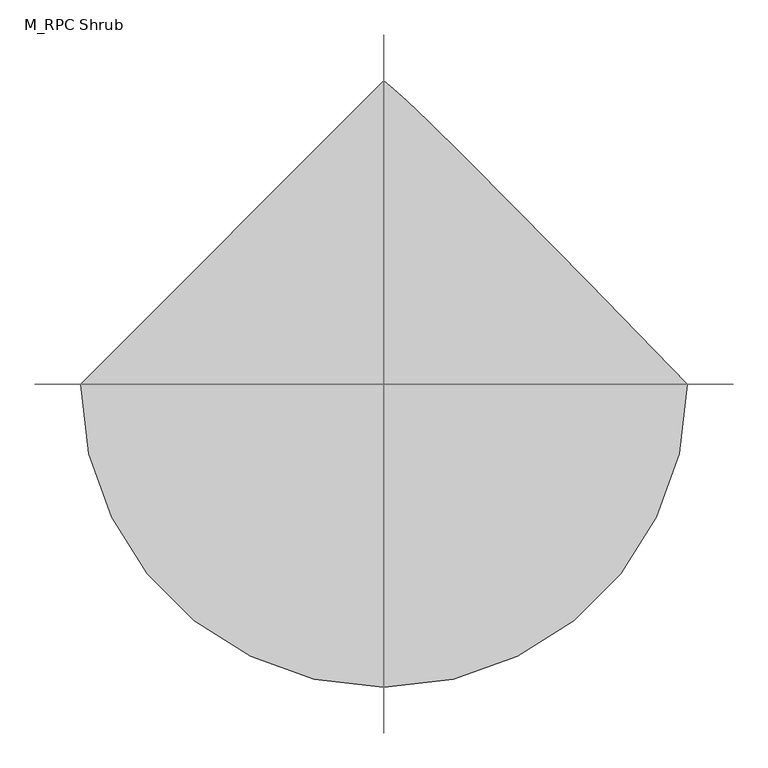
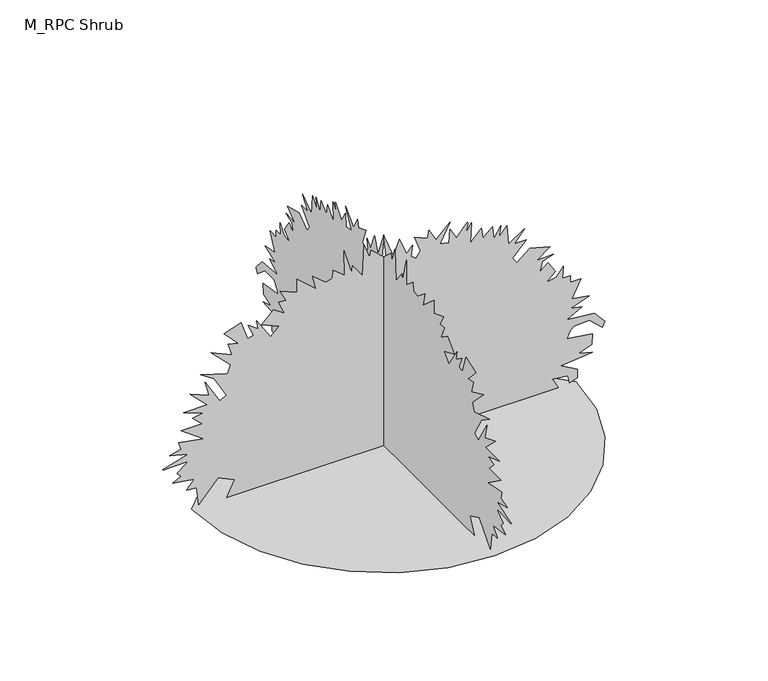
"""IFC4 building model written with IfcOpenShell, lengths in millimetres: geographic element geometry, M_RPC Shrub : Holly - 1.0 Meters."""

from ifc_helpers import new_model, si_unit, origin, place, context, project, spatial, triangles, source, transform, mapped, element, save


def m_rpc_shrub_0614e2a3(model_context):
    return source(origin(), model_context, "Body", "Tessellation", [
        triangles([(-863.8895657, 0.0, 8.03e-05), (-841.0534595, -197.9465477, 8.03e-05), (-776.008956, -379.7280936, 8.03e-05), (-673.9672194, -540.1393052, 8.03e-05), (-540.1393052, -673.9672194, 8.03e-05), (-379.7280936, -776.008956, 8.03e-05), (-197.9465477, -841.0534595, 8.03e-05), (3.78e-05, -863.8895657, 8.03e-05), (197.9468202, -841.0534595, 8.03e-05), (379.7280936, -776.008956, 8.03e-05), (540.1393052, -673.9672194, 8.03e-05), (673.9672194, -540.1393052, 8.03e-05), (776.008956, -379.7280936, 8.03e-05), (841.0534595, -197.9465477, 8.03e-05), (863.8895657, 7.55e-05, 8.03e-05), (583.1449287, 287.9752275, 8.03e-05), (375.0141735, 500.0004035, 8.03e-05), (227.3965669, 648.7310417, 8.03e-05), (128.1887144, 746.8255629, 8.03e-05), (65.288107, 806.9450764, 8.03e-05), (26.592799, 841.7478939, 8.03e-05), (-0.0001133, 863.8895657, 8.03e-05), (-3.9e-06, -706.4477949, 3.2e-06), (1.1e-06, -671.7338528, 73.0758902), (0.0, -744.6339088, 107.8284201), (0.0, -831.4201086, 10.6268143), (0.0, -841.8367693, 93.9425762), (0.0, -886.9646107, 97.4139668), (0.0, -852.2506685, 139.0717801), (0.0, -949.4507675, 152.9579056), (0.0, -911.2646536, 173.7868123), (0.0, -928.6229691, 191.1443284), (2e-07, -926.3202026, 195.0482144), (-1e-07, -885.9451235, 227.4137897), (0.0, -883.4923662, 232.8021236), (3e-07, -987.8563448, 230.2871245), (0.0, -994.5813704, 232.8021236), (0.0, -880.0229559, 267.5168833), (0.0, -963.3369112, 288.3446817), (0.0, -911.2646536, 302.2307891), (0.0, -921.6784801, 336.9474927), (0.0, -810.5923101, 316.1169328), (0.0, -911.2646536, 389.0197503), (0.0, -817.5339649, 389.0197503), (0.0, -859.1923233, 430.6781087), (0.0, -810.5923101, 441.0920079), (0.0, -900.8507544, 472.3337056), (0.0, -793.2339947, 472.3337056), (0.0, -869.6062225, 548.7087676), (0.0, -786.2922672, 513.992064), (0.0, -803.6506554, 583.4226734), (0.0, -737.6894926, 472.3337056), (0.0, -706.4477949, 486.2198493), (0.0, -761.992297, 583.4226734), (0.0, -824.4784538, 625.0810318), (0.0, -702.9755505, 586.8949179), (0.0, -689.0894068, 625.0810318), (0.0, -775.878368, 711.8672316), (0.0, -682.147752, 670.2088732), (0.0, -699.5061401, 725.7533752), (0.0, -654.3755373, 715.339476), (0.0, -716.8616941, 781.2978773), (0.0, -640.4893936, 809.070092), (0.0, -612.7171789, 722.2811308), (0.0, -584.9449279, 729.2256197), (0.0, -609.2449345, 784.7672876), (0.0, -564.1171294, 753.5255899), (7e-07, -571.0587842, 792.0756351), (0.0, -508.5726274, 694.5089161), (0.0, -470.3864771, 732.69503), (0.0, -550.2309857, 767.4117336), (0.0, -494.68652, 819.4839912), (0.0, -446.0864705, 784.7672876), (0.0, -473.8587215, 847.2562059), (0.0, -439.1420179, 843.7840342), (0.0, -466.914269, 895.8562918), (0.0, -390.5419684, 864.6118326), (0.0, -390.5419684, 927.1007509), (0.0, -303.755805, 850.7256889), (0.0, -321.111359, 916.6840902), (0.0, -262.097156, 868.0840044), (0.0, -230.8540775, 875.0284933), (0.0, -227.3821238, 913.2146072), (0.0, -175.3098661, 871.5562489), (0.0, -178.7818017, 989.5869078), (0.0, -144.0667786, 871.5562489), (0.0, -140.5951155, 902.7979465), (0.0, -95.46563, 840.3117897), (0.0, -88.5228488, 986.1146633), (0.0, -64.2222745, 916.6840902), (0.0, -57.2794888, 947.9285494), (0.0, 12.1501214, 885.4423925), (0.0, -1.7355514, 1000.000807), (0.0, 43.393922, 885.4423925), (0.0, 71.1656143, 954.8702042), (0.0, 102.4089744, 875.0284933), (0.0, 130.1809347, 906.270191), (0.0, 123.237872, 857.6701052), (0.0, 144.0670602, 840.3117897), (0.0, 164.8959669, 868.0840044), (0.0, 137.1239975, 940.9868946), (0.0, 196.1393178, 916.6840902), (0.0, 203.0818265, 951.4007938), (0.0, 234.3257406, 895.8562918), (0.0, 296.8113524, 958.3424486), (0.0, 251.6829842, 871.5562489), (0.0, 293.3419058, 861.1423496), (0.0, 296.8113524, 923.6285065), (0.0, 328.0558116, 871.5562489), (0.0, 374.4502908, 928.3341059), (0.0, 377.0003168, 928.1229996), (0.0, 377.7308681, 923.8090914), (0.0, 369.71417, 881.9701481), (0.0, 394.0142129, 920.156262), (0.0, 390.5419684, 826.425646), (0.0, 439.1447794, 878.4979036), (0.0, 446.0864705, 829.8978905), (0.0, 487.7448289, 868.0840044), (0.0, 494.68652, 809.070092), (0.0, 525.9309792, 861.1423496), (0.0, 518.9865266, 809.070092), (0.0, 553.7032302, 850.7256889), (0.0, 560.644885, 760.4672447), (0.0, 633.5477388, 809.070092), (0.0, 588.417136, 753.5255899), (0.0, 640.4893936, 753.5255899), (0.0, 578.0032368, 687.5671886), (0.0, 598.8310352, 659.7949739), (0.0, 657.8477818, 708.3949871), (0.0, 748.1061533, 684.0950169), (0.0, 689.0894068, 638.9671755), (0.0, 761.992297, 642.4366585), (0.0, 713.3922112, 625.0810318), (0.0, 702.9755505, 579.9504653), (0.0, 737.6922541, 611.1949608), (0.0, 772.4061962, 559.1226668), (0.0, 730.7478378, 520.9365166), (0.0, 775.878368, 527.8782077), (0.0, 807.1200657, 569.5365661), (0.0, 803.6506554, 513.992064), (0.0, 838.3645248, 513.992064), (0.0, 838.3645248, 482.7504026), (0.0, 886.9646107, 482.7504026), (0.0, 845.3062523, 402.905894), (0.0, 925.1507246, 389.0197503), (0.0, 841.8367693, 357.7752912), (0.0, 890.4368551, 347.3613919), (0.0, 824.4784538, 309.1752417), (0.0, 945.9812845, 298.7613424), (0.0, 994.5813704, 243.216586), (0.0, 984.1674711, 218.9160162), (0.0, 925.1507246, 270.9882739), (0.0, 858.8201077, 269.4702161), (0.0, 850.034016, 265.2193854), (0.0, 842.9201334, 258.6913137), (0.0, 837.1395269, 250.3415872), (0.0, 832.3617662, 240.6254651), (0.0, 828.2534414, 229.9985157), (0.0, 824.4784538, 218.9160162), (0.0, 939.0368683, 201.5587727), (0.0, 935.5673853, 152.9579056), (0.0, 876.5507114, 132.1289989), (0.0, 939.0368683, 114.7714828), (0.0, 796.7061665, 100.8856389), (0.0, 869.6090567, 59.2275485), (0.0, 869.6090567, 17.5697919), (0.0, 834.8923531, 7.1553392), (0.0, 827.9506983, 41.8703095), (0.0, 758.5200525, 48.8130952), (0.0, 786.2922672, 0.2123593), (-706.4477949, 0.0001301, 0.0), (-671.7338528, 0.0001207, 73.0758902), (-744.6339088, 0.0001197, 107.8284201), (-831.4201086, 0.0001255, 10.6268143), (-841.8367693, 0.0001206, 93.9425762), (-886.9646107, 0.0001204, 97.4139668), (-852.2506685, 0.0001179, 139.0717801), (-949.4507675, 0.000117, 152.9579056), (-911.2646536, 0.0001158, 173.7868123), (-928.6229691, 0.0001148, 191.1443284), (-926.3202026, 0.0001143, 195.0482144), (-885.9451235, 0.0001127, 227.4137897), (-883.4923662, 0.0001123, 232.8021236), (-987.8563448, 0.0001122, 230.2871245), (-994.5813704, 0.0001123, 232.8021236), (-880.0229559, 0.0001102, 267.5168833), (-963.3369112, 0.000109, 288.3446817), (-911.2646536, 0.0001082, 302.2307891), (-921.6784801, 0.0001061, 336.9474927), (-810.5923101, 0.0001073, 316.1169328), (-911.2646536, 0.000103, 389.0197503), (-817.5339649, 0.000103, 389.0197503), (-859.1923233, 0.0001005, 430.6781087), (-810.5923101, 9.99e-05, 441.0920079), (-900.8507544, 9.8e-05, 472.3337056), (-793.2339947, 9.8e-05, 472.3337056), (-869.6062225, 9.35e-05, 548.7060061), (-786.2922672, 9.55e-05, 513.992064), (-803.6506554, 9.14e-05, 583.4226734), (-737.6922541, 9.8e-05, 472.3337056), (-706.4477949, 9.72e-05, 486.2198493), (-761.992297, 9.14e-05, 583.4226734), (-824.4784538, 8.89e-05, 625.0810318), (-702.9755505, 9.12e-05, 586.8949179), (-689.0894068, 8.89e-05, 625.0810318), (-775.878368, 8.37e-05, 711.8672316), (-682.147752, 8.62e-05, 670.2088732), (-699.5061401, 8.29e-05, 725.7533752), (-654.3755373, 8.35e-05, 715.339476), (-716.8616941, 7.96e-05, 781.2978773), (-640.4893936, 7.79e-05, 809.070092), (-612.7171789, 8.31e-05, 722.2811308), (-584.9449279, 8.27e-05, 729.2256197), (-609.2449345, 7.94e-05, 784.7672876), (-564.1171294, 8.13e-05, 753.5255899), (-571.0587842, 7.83e-05, 792.0756351), (-508.5726274, 8.48e-05, 694.5089161), (-470.3864771, 8.25e-05, 732.69503), (-550.2309857, 8.04e-05, 767.4117336), (-494.68652, 7.73e-05, 819.4839912), (-446.0864705, 7.94e-05, 784.7672876), (-473.8587215, 7.57e-05, 847.2562059), (-439.1447794, 7.59e-05, 843.7840342), (-466.914269, 7.28e-05, 895.8562918), (-390.5419684, 7.46e-05, 864.6118326), (-390.5419684, 7.09e-05, 927.1007509), (-303.755805, 7.55e-05, 850.7256889), (-321.111359, 7.15e-05, 916.6840902), (-262.097156, 7.44e-05, 868.0840044), (-230.8540775, 7.4e-05, 875.0284933), (-227.3823963, 7.17e-05, 913.2146072), (-175.3098661, 7.42e-05, 871.5562489), (-178.7818017, 6.72e-05, 989.5869078), (-144.0670602, 7.42e-05, 871.5562489), (-140.5951155, 7.24e-05, 902.7979465), (-95.4659116, 7.61e-05, 840.3117897), (-88.5228488, 6.74e-05, 986.1146633), (-64.2225516, 7.15e-05, 916.6840902), (-57.2797659, 6.97e-05, 947.9285494), (12.1500101, 7.34e-05, 885.4423925), (-1.7356514, 6.66e-05, 1000.000807), (43.3936449, 7.34e-05, 885.4423925), (71.1656143, 6.93e-05, 954.8702042), (102.4089744, 7.4e-05, 875.0284933), (130.1809347, 7.21e-05, 906.270191), (123.237872, 7.5e-05, 857.6701052), (144.0667786, 7.61e-05, 840.3117897), (164.8956944, 7.44e-05, 868.0840044), (137.1239975, 7.01e-05, 940.9840605), (196.1390453, 7.15e-05, 916.6840902), (203.0818265, 6.95e-05, 951.4007938), (234.3254681, 7.28e-05, 895.8562918), (296.8113524, 6.9e-05, 958.3424486), (251.6829842, 7.42e-05, 871.5562489), (293.3419058, 7.48e-05, 861.1423496), (296.8113524, 7.11e-05, 923.6285065), (328.0558116, 7.42e-05, 871.5562489), (374.4502908, 7.08e-05, 928.3341059), (377.0003168, 7.08e-05, 928.1229996), (377.7280704, 7.11e-05, 923.8090914), (369.71417, 7.36e-05, 881.9701481), (394.0142129, 7.13e-05, 920.156262), (390.5419684, 7.69e-05, 826.425646), (439.1420179, 7.38e-05, 878.4979036), (446.0864705, 7.67e-05, 829.8978905), (487.7448289, 7.44e-05, 868.0840044), (494.68652, 7.79e-05, 809.070092), (525.9309792, 7.48e-05, 861.1423496), (518.9865266, 7.79e-05, 809.070092), (553.7032302, 7.55e-05, 850.7256889), (560.644885, 8.08e-05, 760.4672447), (633.5477388, 7.79e-05, 809.070092), (588.417136, 8.13e-05, 753.5255899), (640.4893936, 8.13e-05, 753.5255899), (578.0032368, 8.52e-05, 687.5671886), (598.8310352, 8.68e-05, 659.7949739), (657.8477818, 8.39e-05, 708.3949871), (748.1061533, 8.54e-05, 684.0950169), (689.0894068, 8.81e-05, 638.9671755), (761.992297, 8.79e-05, 642.4366585), (713.3922112, 8.89e-05, 625.0810318), (702.9755505, 9.16e-05, 579.9504653), (737.6922541, 8.97e-05, 611.1949608), (772.4061962, 9.28e-05, 559.1226668), (730.7478378, 9.51e-05, 520.9365166), (775.878368, 9.47e-05, 527.8782077), (807.1200657, 9.22e-05, 569.5365661), (803.6506554, 9.55e-05, 513.992064), (838.3645248, 9.55e-05, 513.992064), (838.3645248, 9.74e-05, 482.7504026), (886.9646107, 9.74e-05, 482.7504026), (845.3062523, 0.0001022, 402.905894), (925.1507246, 0.000103, 389.0197503), (841.8367693, 0.0001048, 357.7752912), (890.4368551, 0.0001055, 347.3613919), (824.4784538, 0.0001077, 309.1752417), (945.9812845, 0.0001084, 298.7613424), (994.5813704, 0.0001117, 243.216586), (984.1674711, 0.0001131, 218.9160162), (925.1507246, 0.00011, 270.9882739), (858.8201077, 0.0001101, 269.4702161), (850.034016, 0.0001104, 265.2193854), (842.9201334, 0.0001107, 258.6913137), (837.1395269, 0.0001112, 250.3415872), (832.3617662, 0.0001118, 240.6254651), (828.2534414, 0.0001125, 229.9985157), (824.4784538, 0.0001131, 218.9160162), (939.0368683, 0.0001142, 201.5585001), (935.5673853, 0.000117, 152.9579056), (876.5507114, 0.0001183, 132.1289989), (939.0368683, 0.0001193, 114.7714828), (796.7061665, 0.0001202, 100.8853573), (869.6090567, 0.0001226, 59.2275485), (869.6090567, 0.0001251, 17.5697919), (834.8923531, 0.0001257, 7.1553392), (827.9506983, 0.0001237, 41.8703095), (758.5200525, 0.0001233, 48.8130952), (786.2922672, 0.0001262, 0.2123563)], [[21, 22, 1], [20, 21, 1], [19, 20, 1], [18, 19, 1], [17, 18, 1], [17, 1, 2], [17, 2, 3], [17, 3, 4], [16, 17, 4], [16, 4, 5], [16, 5, 6], [16, 6, 7], [16, 7, 8], [16, 8, 9], [16, 9, 10], [16, 10, 11], [16, 11, 12], [15, 16, 12], [14, 15, 12], [13, 14, 12], [92, 93, 94], [84, 85, 86], [54, 55, 56], [50, 51, 52], [131, 132, 133], [123, 124, 125], [104, 105, 106], [46, 47, 48], [57, 58, 59], [88, 89, 90], [48, 49, 50], [67, 68, 69], [119, 120, 121], [162, 163, 164], [38, 39, 40], [113, 114, 115], [144, 145, 146], [65, 66, 67], [138, 139, 140], [96, 97, 98], [107, 108, 109], [79, 80, 81], [42, 43, 44], [29, 30, 31], [36, 37, 38], [75, 76, 77], [102, 103, 104], [146, 147, 148], [86, 87, 88], [94, 95, 96], [121, 122, 123], [125, 126, 127], [100, 101, 102], [77, 78, 79], [25, 26, 27], [115, 116, 117], [129, 130, 131], [117, 118, 119], [27, 28, 29], [82, 83, 84], [44, 45, 46], [48, 50, 52], [59, 60, 61], [169, 170, 23], [73, 74, 75], [90, 91, 92], [142, 143, 144], [40, 41, 42], [38, 40, 42], [169, 23, 24], [53, 54, 56], [61, 62, 63], [61, 63, 64], [70, 71, 72], [70, 72, 73], [150, 151, 152], [149, 150, 152], [148, 149, 152], [148, 152, 153], [128, 129, 131], [148, 153, 154], [35, 36, 38], [134, 135, 136], [134, 136, 137], [65, 67, 69], [166, 167, 168], [165, 166, 168], [164, 165, 168], [164, 168, 169], [88, 90, 92], [140, 141, 142], [100, 102, 104], [159, 160, 161], [159, 161, 162], [25, 27, 29], [123, 125, 127], [148, 154, 155], [100, 104, 106], [110, 111, 112], [109, 110, 112], [109, 112, 113], [109, 113, 115], [31, 32, 33], [131, 133, 134], [159, 162, 164], [128, 131, 134], [46, 48, 52], [73, 75, 77], [73, 77, 79], [29, 31, 33], [29, 33, 34], [44, 46, 52], [148, 155, 156], [164, 169, 24], [159, 164, 24], [158, 159, 24], [157, 158, 24], [156, 157, 24], [148, 156, 24], [146, 148, 24], [144, 146, 24], [142, 144, 24], [140, 142, 24], [138, 140, 24], [137, 138, 24], [134, 137, 24], [128, 134, 24], [127, 128, 24], [123, 127, 24], [121, 123, 24], [119, 121, 24], [117, 119, 24], [115, 117, 24], [109, 115, 24], [107, 109, 24], [106, 107, 24], [106, 24, 25], [106, 25, 29], [106, 29, 34], [106, 34, 35], [106, 35, 38], [106, 38, 42], [106, 42, 44], [106, 44, 52], [106, 52, 53], [106, 53, 56], [99, 100, 106], [99, 106, 56], [99, 56, 57], [98, 99, 57], [96, 98, 57], [94, 96, 57], [59, 61, 64], [57, 59, 64], [70, 73, 79], [64, 65, 69], [57, 64, 69], [94, 57, 69], [84, 86, 88], [88, 92, 94], [88, 94, 69], [88, 69, 70], [88, 70, 79], [84, 88, 79], [82, 84, 79], [82, 79, 81], [240, 241, 242], [232, 233, 234], [202, 203, 204], [198, 199, 200], [279, 280, 281], [271, 272, 273], [252, 253, 254], [194, 195, 196], [205, 206, 207], [236, 237, 238], [196, 197, 198], [215, 216, 217], [267, 268, 269], [310, 311, 312], [186, 187, 188], [261, 262, 263], [292, 293, 294], [213, 214, 215], [286, 287, 288], [244, 245, 246], [255, 256, 257], [227, 228, 229], [190, 191, 192], [177, 178, 179], [184, 185, 186], [223, 224, 225], [250, 251, 252], [294, 295, 296], [234, 235, 236], [242, 243, 244], [269, 270, 271], [273, 274, 275], [248, 249, 250], [225, 226, 227], [173, 174, 175], [263, 264, 265], [277, 278, 279], [265, 266, 267], [175, 176, 177], [230, 231, 232], [192, 193, 194], [196, 198, 200], [207, 208, 209], [317, 318, 171], [221, 222, 223], [238, 239, 240], [290, 291, 292], [188, 189, 190], [186, 188, 190], [317, 171, 172], [201, 202, 204], [209, 210, 211], [209, 211, 212], [218, 219, 220], [218, 220, 221], [298, 299, 300], [297, 298, 300], [296, 297, 300], [296, 300, 301], [276, 277, 279], [296, 301, 302], [183, 184, 186], [282, 283, 284], [282, 284, 285], [213, 215, 217], [314, 315, 316], [313, 314, 316], [312, 313, 316], [312, 316, 317], [236, 238, 240], [288, 289, 290], [248, 250, 252], [307, 308, 309], [307, 309, 310], [173, 175, 177], [271, 273, 275], [296, 302, 303], [248, 252, 254], [258, 259, 260], [257, 258, 260], [257, 260, 261], [257, 261, 263], [179, 180, 181], [279, 281, 282], [307, 310, 312], [276, 279, 282], [194, 196, 200], [221, 223, 225], [221, 225, 227], [177, 179, 181], [177, 181, 182], [192, 194, 200], [296, 303, 304], [312, 317, 172], [307, 312, 172], [306, 307, 172], [305, 306, 172], [304, 305, 172], [296, 304, 172], [294, 296, 172], [292, 294, 172], [290, 292, 172], [288, 290, 172], [286, 288, 172], [285, 286, 172], [282, 285, 172], [276, 282, 172], [275, 276, 172], [271, 275, 172], [269, 271, 172], [267, 269, 172], [265, 267, 172], [263, 265, 172], [257, 263, 172], [255, 257, 172], [254, 255, 172], [254, 172, 173], [254, 173, 177], [254, 177, 182], [254, 182, 183], [254, 183, 186], [254, 186, 190], [254, 190, 192], [254, 192, 200], [254, 200, 201], [254, 201, 204], [247, 248, 254], [247, 254, 204], [247, 204, 205], [246, 247, 205], [244, 246, 205], [242, 244, 205], [207, 209, 212], [205, 207, 212], [218, 221, 227], [212, 213, 217], [205, 212, 217], [242, 205, 217], [232, 234, 236], [236, 240, 242], [236, 242, 217], [236, 217, 218], [236, 218, 227], [232, 236, 227], [230, 232, 227], [230, 227, 229]], closed=False),
    ])


if __name__ == "__main__":
    model = new_model("IFC4")
    model_context = context("Model", 3, world=origin())
    ifc_project = project(units=[si_unit("LENGTHUNIT", "METRE", prefix="MILLI")], contexts=[model_context])
    site = spatial("IfcSite", under=ifc_project)
    building = spatial("IfcBuilding", under=site)
    placement = place(None, origin())
    m_rpc_shrub_shape = m_rpc_shrub_0614e2a3(model_context)
    element("IfcGeographicElement", 1, ObjectType="M_RPC Shrub : Holly - 1.0 Meters", at=placement, inside=building, context=model_context, shape_type="MappedRepresentation", body=[
        mapped(m_rpc_shrub_shape, transform((0.0, 0.0, 0.0), x_axis=(1.0, 0.0, 0.0), y_axis=(0.0, 1.0, 0.0), z_axis=(0.0, 0.0, 1.0))),
    ])
    save(model, "model.ifc")
